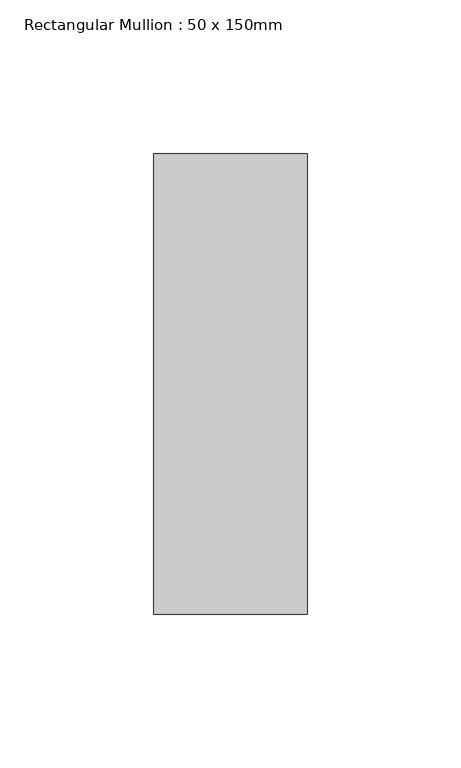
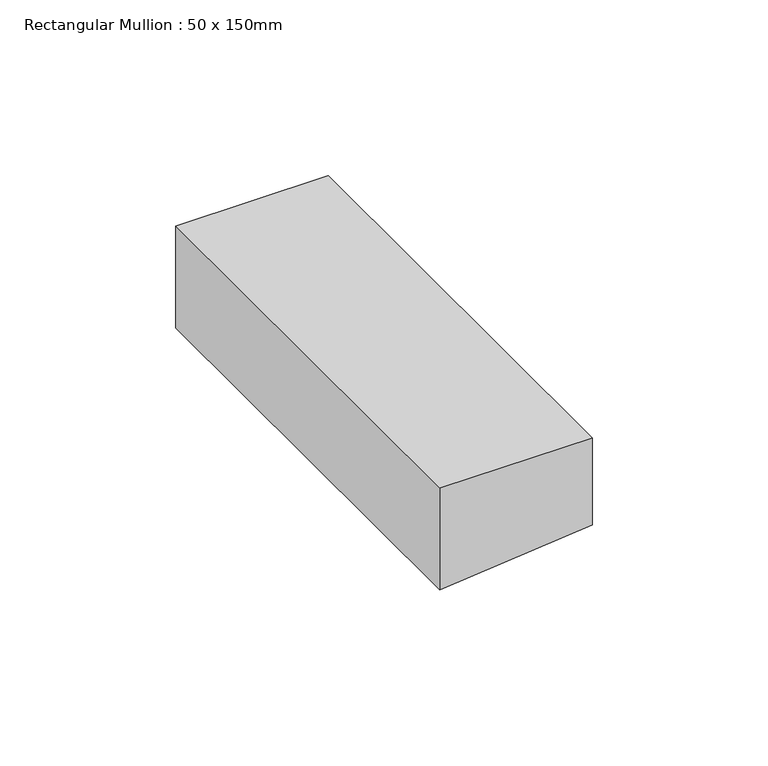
"""IFC4 building model written with IfcOpenShell, lengths in millimetres: member geometry, Rectangular Mullion : 50 x 150mm."""

from ifc_helpers import new_model, si_unit, frame, origin, place, context, project, spatial, polyline, outline, extrude, source, transform, mapped, element, save


def rectangular_mullion_50_x_150mm_06a2d650(model_context):
    return source(origin(), model_context, "Body", "SweptSolid", [
        extrude(outline(polyline([(0.0, 25.0), (0.0, -25.0), (-35.3767427, -25.0), (-33.3659756, -5.0022633), (-30.349256, 25.0), (0.0, 25.0)])), frame((0.0, -75.0, 0.0), z_axis=(0.0, 1.0, 0.0), x_axis=(0.0, 0.0, 1.0)), (0.0, 0.0, 1.0), 150.0),
    ])


if __name__ == "__main__":
    model = new_model("IFC4")
    model_context = context("Model", 3, world=origin())
    ifc_project = project(units=[si_unit("LENGTHUNIT", "METRE", prefix="MILLI")], contexts=[model_context])
    site = spatial("IfcSite", under=ifc_project)
    building = spatial("IfcBuilding", under=site)
    placement = place(None, origin())
    rectangular_mullion_50_x_150mm_shape = rectangular_mullion_50_x_150mm_06a2d650(model_context)
    element("IfcMember", 1, ObjectType="Rectangular Mullion : 50 x 150mm", at=placement, inside=building, context=model_context, shape_type="MappedRepresentation", body=[
        mapped(rectangular_mullion_50_x_150mm_shape, transform((0.0, 0.0, 0.0), x_axis=(1.0, 0.0, 0.0), y_axis=(0.0, 1.0, 0.0), z_axis=(0.0, 0.0, 1.0))),
    ])
    save(model, "model.ifc")
